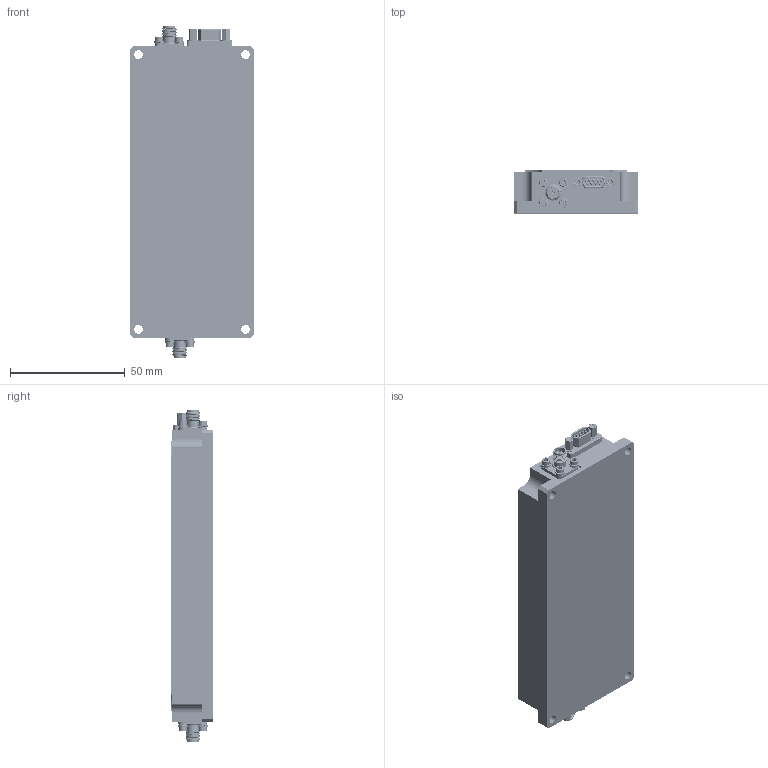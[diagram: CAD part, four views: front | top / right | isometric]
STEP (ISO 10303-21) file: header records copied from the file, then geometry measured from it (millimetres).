
FILE_DESCRIPTION (( 'STEP AP214' ), '1' );
FILE_NAME ('A6093-2000 for customer.STEP', '2023-04-04T14:24:26', ( '' ), ( '' ), 'SwSTEP 2.0', 'SolidWorks 2021', '' );
FILE_SCHEMA (( 'AUTOMOTIVE_DESIGN' ));
Length unit declared in the file: inch
Products named in the file (13): MDM JACK POST LOCK_98449A500; MDM JACK POST_91075A512; A6093-2600; FS-SCREW STACK UP 2-56 x .188 long; A6093-2000 for customer; 92146A520 (71051) - WASHER, SPLIT-LOCK, SS, #2, .18 OD X .02 THK_92146A520; A6093-2200; 92196A076 (73398) - SCREW, SHCS, SS, #2-56 X .188L_92196A076; HRM(V)-306S - CONNECTOR, SMA, .50 FLANGE, 4 HOLE, .158L DIE, .050 DIA PIN; A6093-2300; 90945A705 (9900326) - WASHER, FLAT, SS, #2, .15 OD X .01 THK_90945A705; 96640A023 (0145196) - SCREW, PFHMS, SS, #2-56 X .250L, BLACK OXIDE_96640A023; MDM-9P
Assembly tree (43 placements, depth 3):
  A6093-2000 for customer
    A6093-2200
    A6093-2300
    A6093-2600
    HRM(V)-306S - CONNECTOR, SMA, .50 FLANGE, 4 HOLE, .158L DIE, .050 DIA PIN  x2
    FS-SCREW STACK UP 2-56 x .188 long  x8
      92196A076 (73398) - SCREW, SHCS, SS, #2-56 X .188L_92196A076
      92146A520 (71051) - WASHER, SPLIT-LOCK, SS, #2, .18 OD X .02 THK_92146A520
      90945A705 (9900326) - WASHER, FLAT, SS, #2, .15 OD X .01 THK_90945A705
    96640A023 (0145196) - SCREW, PFHMS, SS, #2-56 X .250L, BLACK OXIDE_96640A023  x22
    MDM-9P
    MDM JACK POST LOCK_98449A500  x2
    MDM JACK POST_91075A512  x2
Bounding box: 53.98 x 18.68 x 144.58 mm (x, y, z)
Volume: 54132.4 mm3; surface area: 50864.5 mm2
Topology: 56 solids, 56 shells, 5085 faces, 13711 edges, 8911 vertices
Faces by surface type: plane 1833, cylinder 1592, bspline 961, cone 668, torus 31
Entity records: 153955 total; most frequent: CARTESIAN_POINT 69412, ORIENTED_EDGE 15932, DIRECTION 11507, EDGE_CURVE 7966, VERTEX_POINT 5254, LINE 4759, VECTOR 4759, EDGE_LOOP 3382
